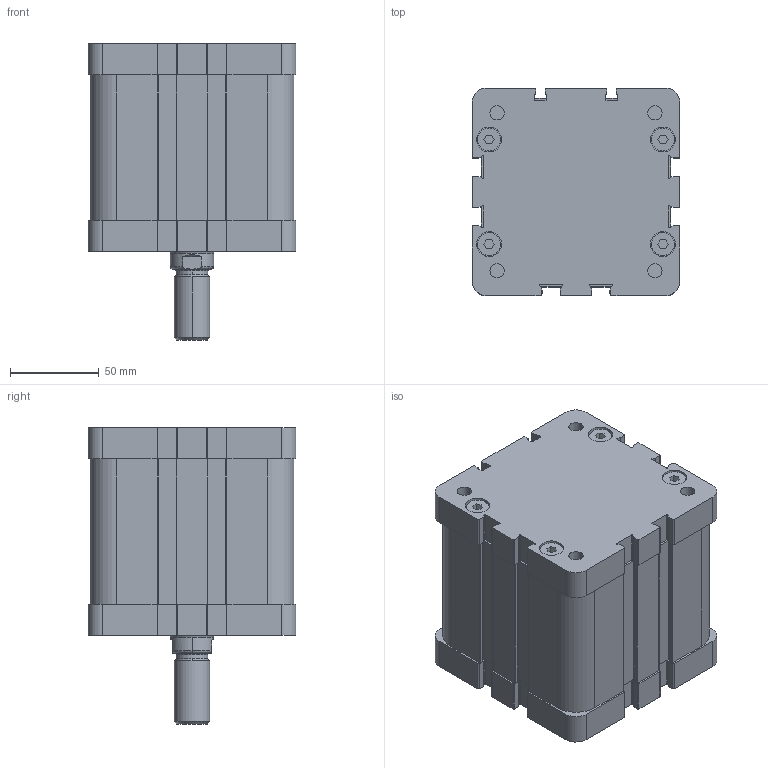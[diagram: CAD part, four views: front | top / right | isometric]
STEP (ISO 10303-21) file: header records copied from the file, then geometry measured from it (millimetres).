
FILE_DESCRIPTION((''),'2;1');
FILE_NAME('P31M21000050.stp','2010-02-25T20:26:05',('B. Petkovic 2010'),('AZ PNEUMATICA S.r.l.'),'Mechanical Desktop 2006','Mechanical Desktop 2006','Via Marco Biagi 6, I-20020 Misinto(MI) Italy, azpneu@tin.it');
FILE_SCHEMA(('CONFIG_CONTROL_DESIGN'));
Length unit declared in the file: millimetre
Products named in the file (2): P31M21000050; COMPACT CILINDRI
Assembly tree (1 placements, depth 2):
  P31M21000050
    COMPACT CILINDRI
Bounding box: 117 x 117 x 167 mm (x, y, z)
Volume: 1501278.5 mm3; surface area: 107524.6 mm2
Topology: 1 solids, 1 shells, 568 faces, 1479 edges, 951 vertices
Faces by surface type: plane 362, cylinder 194, cone 6, bspline 4, torus 2
Entity records: 17677 total; most frequent: CARTESIAN_POINT 3260, DIRECTION 3054, ORIENTED_EDGE 2958, EDGE_CURVE 1479, VECTOR 1032, LINE 1032, AXIS2_PLACEMENT_3D 1011, VERTEX_POINT 951
